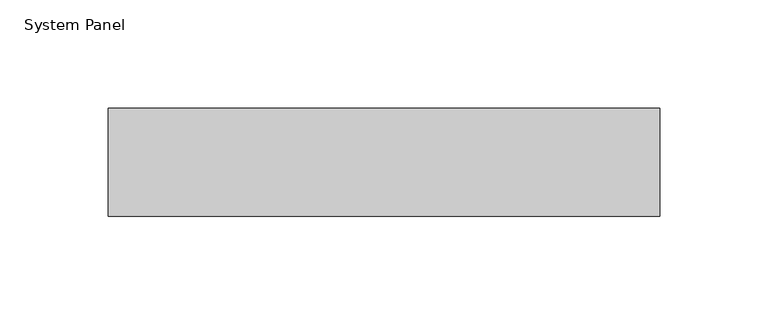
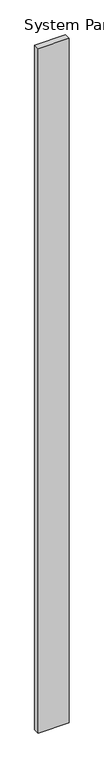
"""IFC4 building model written with IfcOpenShell, lengths in millimetres: plate geometry, System Panel : Trimo - Qbiss Screen - Placeholder Panel."""

from ifc_helpers import new_model, si_unit, origin, origin_with_axes, place, context, project, spatial, polyline, outline, extrude, source, transform, mapped, element, save


def system_panel_f6e690f5(model_context):
    return source(origin(), model_context, "Body", "SweptSolid", [
        extrude(outline(polyline([(127.5, -100.0), (-127.5, -100.0), (-127.5, -50.0), (127.5, -50.0), (127.5, -100.0)])), origin_with_axes(), (0.0, 0.0, 1.0), 6000.0),
    ])


if __name__ == "__main__":
    model = new_model("IFC4")
    model_context = context("Model", 3, world=origin())
    ifc_project = project(units=[si_unit("LENGTHUNIT", "METRE", prefix="MILLI")], contexts=[model_context])
    site = spatial("IfcSite", under=ifc_project)
    building = spatial("IfcBuilding", under=site)
    placement = place(None, origin())
    system_panel_shape = system_panel_f6e690f5(model_context)
    element("IfcPlate", 1, ObjectType="System Panel : Trimo - Qbiss Screen - Placeholder Panel", at=placement, inside=building, context=model_context, shape_type="MappedRepresentation", body=[
        mapped(system_panel_shape, transform((0.0, 0.0, 0.0), x_axis=(1.0, 0.0, 0.0), y_axis=(0.0, 1.0, 0.0), z_axis=(0.0, 0.0, 1.0))),
    ])
    save(model, "model.ifc")
